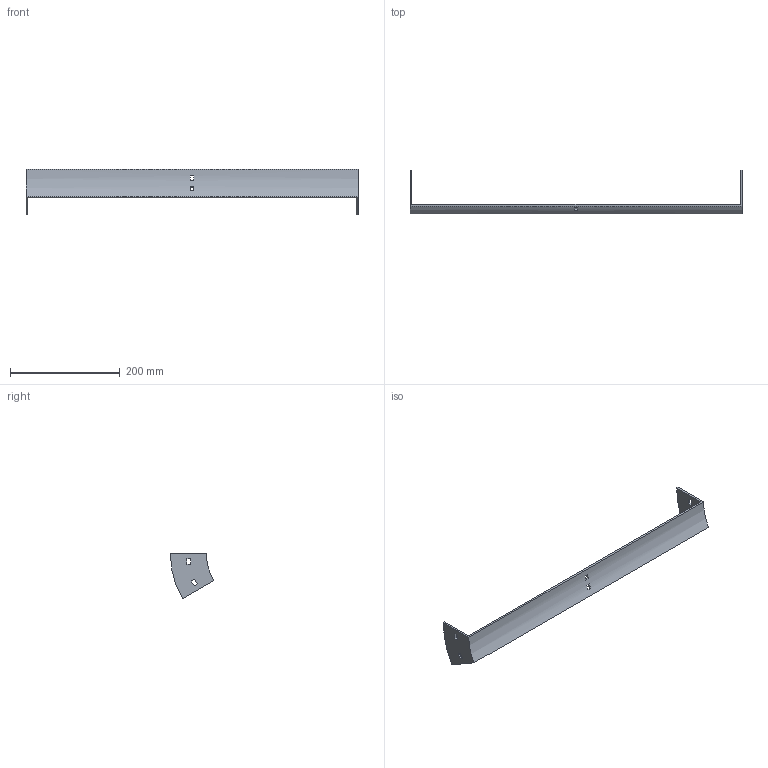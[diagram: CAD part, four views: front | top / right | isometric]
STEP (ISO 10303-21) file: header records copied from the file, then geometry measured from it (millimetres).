
FILE_DESCRIPTION (( 'STEP AP214' ), '1' );
FILE_NAME ('35B1H600.step', '2025-02-21T09:26:13', ( '' ), ( '' ), 'SwSTEP 2.0', 'SolidWorks 2023', '' );
FILE_SCHEMA (( 'AUTOMOTIVE_DESIGN' ));
Length unit declared in the file: millimetre
Products named in the file (1): 35B1H600
Bounding box: 604 x 78.9 x 82.75 mm (x, y, z)
Volume: 141794.7 mm3; surface area: 87417.8 mm2
Topology: 1 solids, 1 shells, 34 faces, 96 edges, 64 vertices
Faces by surface type: plane 30, cylinder 4
Entity records: 1143 total; most frequent: CARTESIAN_POINT 195, ORIENTED_EDGE 192, DIRECTION 182, EDGE_CURVE 96, VECTOR 80, LINE 80, VERTEX_POINT 64, AXIS2_PLACEMENT_3D 51
